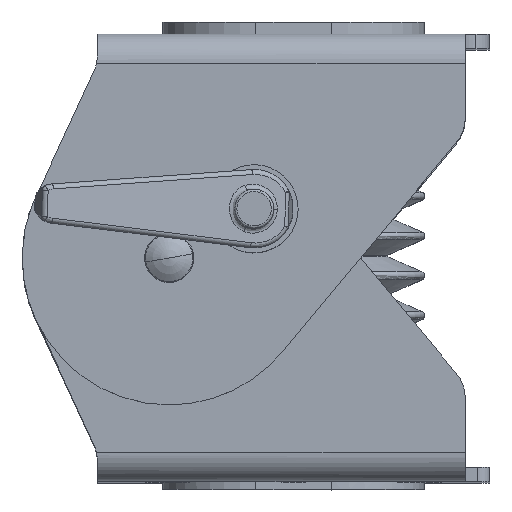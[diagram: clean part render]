
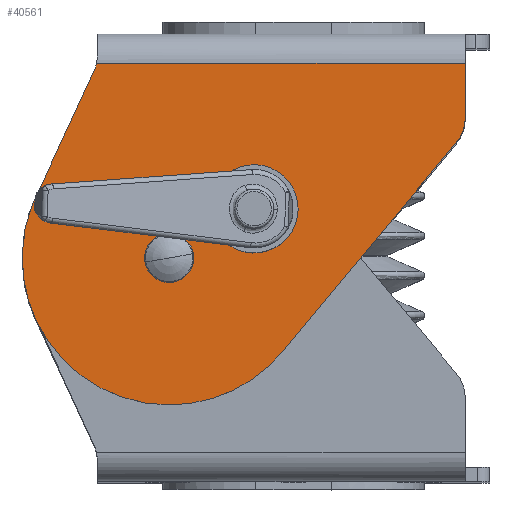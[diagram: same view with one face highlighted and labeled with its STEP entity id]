
A CAD part, top view. The second image highlights one B-rep face of the part: STEP entity #40561.
In plain terms, the highlighted planar face has unit normal (0, 0, 1) as drawn and (1, 0, 0) by its records, which use the part's own axes.
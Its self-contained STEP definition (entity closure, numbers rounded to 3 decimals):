
#167 = DIRECTION ( 'NONE',  ( 0., 1., 0. ) ) ;
#375 = CIRCLE ( 'NONE', #7839, 30. ) ;
#518 = DIRECTION ( 'NONE',  ( 1., 0., 0. ) ) ;
#819 = AXIS2_PLACEMENT_3D ( 'NONE', #30276, #25550, #56604 ) ;
#1138 = ORIENTED_EDGE ( 'NONE', *, *, #44707, .T. ) ;
#1325 = DIRECTION ( 'NONE',  ( 1., 0., 0. ) ) ;
#1395 = ORIENTED_EDGE ( 'NONE', *, *, #45716, .F. ) ;
#2998 = VECTOR ( 'NONE', #30025, 1000. ) ;
#4478 = VERTEX_POINT ( 'NONE', #41335 ) ;
#4757 = AXIS2_PLACEMENT_3D ( 'NONE', #58039, #518, #36445 ) ;
#5113 = CARTESIAN_POINT ( 'NONE',  ( 988.398, 293.008, -6. ) ) ;
#5135 = VERTEX_POINT ( 'NONE', #7096 ) ;
#5344 = CIRCLE ( 'NONE', #4757, 8. ) ;
#5802 = CARTESIAN_POINT ( 'NONE',  ( 988.398, 293.008, -0.499 ) ) ;
#6952 = CARTESIAN_POINT ( 'NONE',  ( 988.398, 232.584, -45.701 ) ) ;
#7028 = CARTESIAN_POINT ( 'NONE',  ( 988.398, 204.502, -35.149 ) ) ;
#7096 = CARTESIAN_POINT ( 'NONE',  ( 988.398, 217.778, -6. ) ) ;
#7839 = AXIS2_PLACEMENT_3D ( 'NONE', #6952, #1325, #16991 ) ;
#7845 = ORIENTED_EDGE ( 'NONE', *, *, #41290, .F. ) ;
#8040 = VERTEX_POINT ( 'NONE', #51368 ) ;
#8861 = EDGE_LOOP ( 'NONE', ( #64057, #15357, #58550, #63184 ) ) ;
#8943 = DIRECTION ( 'NONE',  ( 0., 0., -1. ) ) ;
#9208 = VECTOR ( 'NONE', #15420, 1000. ) ;
#10477 = LINE ( 'NONE', #18034, #63560 ) ;
#11359 = DIRECTION ( 'NONE',  ( 0., 0.64, 0.769 ) ) ;
#11716 = EDGE_LOOP ( 'NONE', ( #1395, #45173, #35265, #22279, #58313, #51572, #1138, #27426 ) ) ;
#12749 = CARTESIAN_POINT ( 'NONE',  ( 988.398, 232.584, -75.701 ) ) ;
#13629 = VERTEX_POINT ( 'NONE', #7028 ) ;
#13684 = PLANE ( 'NONE',  #39073 ) ;
#15328 = DIRECTION ( 'NONE',  ( 1., 0., 0. ) ) ;
#15357 = ORIENTED_EDGE ( 'NONE', *, *, #15688, .F. ) ;
#15420 = DIRECTION ( 'NONE',  ( 0., 0., 1. ) ) ;
#15688 = EDGE_CURVE ( 'NONE', #50810, #57821, #30295, .T. ) ;
#16991 = DIRECTION ( 'NONE',  ( 0., 0., -1. ) ) ;
#17071 = VECTOR ( 'NONE', #23934, 1000. ) ;
#18034 = CARTESIAN_POINT ( 'NONE',  ( 988.398, 229.384, -48.901 ) ) ;
#18854 = DIRECTION ( 'NONE',  ( 1., 0., 0. ) ) ;
#21484 = FACE_OUTER_BOUND ( 'NONE', #11716, .T. ) ;
#22201 = VECTOR ( 'NONE', #27211, 1000. ) ;
#22279 = ORIENTED_EDGE ( 'NONE', *, *, #47772, .T. ) ;
#22888 = CARTESIAN_POINT ( 'NONE',  ( 988.398, 249.905, -43.801 ) ) ;
#22961 = EDGE_CURVE ( 'NONE', #26733, #13629, #38833, .T. ) ;
#23262 = DIRECTION ( 'NONE',  ( 0., 1., 0. ) ) ;
#23934 = DIRECTION ( 'NONE',  ( 0., -0.419, -0.908 ) ) ;
#24068 = VERTEX_POINT ( 'NONE', #29010 ) ;
#24246 = CIRCLE ( 'NONE', #59595, 8.1 ) ;
#24586 = VECTOR ( 'NONE', #167, 1000. ) ;
#24688 = CARTESIAN_POINT ( 'NONE',  ( 988.398, 217.274, -7.442 ) ) ;
#25351 = LINE ( 'NONE', #5113, #24586 ) ;
#25463 = VECTOR ( 'NONE', #23262, 1000. ) ;
#25550 = DIRECTION ( 'NONE',  ( -1., 0., 0. ) ) ;
#25802 = VERTEX_POINT ( 'NONE', #12749 ) ;
#26164 = CARTESIAN_POINT ( 'NONE',  ( 988.398, 293.008, -17.095 ) ) ;
#26733 = VERTEX_POINT ( 'NONE', #24688 ) ;
#27211 = DIRECTION ( 'NONE',  ( 0., -1., 0. ) ) ;
#27426 = ORIENTED_EDGE ( 'NONE', *, *, #48279, .T. ) ;
#27465 = CARTESIAN_POINT ( 'NONE',  ( 988.398, 229.384, -48.901 ) ) ;
#28085 = EDGE_CURVE ( 'NONE', #60522, #39290, #10477, .T. ) ;
#29010 = CARTESIAN_POINT ( 'NONE',  ( 988.398, 249.905, -27.601 ) ) ;
#29173 = DIRECTION ( 'NONE',  ( 0., 0., -1. ) ) ;
#30025 = DIRECTION ( 'NONE',  ( 0., 0., 1. ) ) ;
#30253 = LINE ( 'NONE', #32629, #22201 ) ;
#30276 = CARTESIAN_POINT ( 'NONE',  ( 988.398, 210.008, -4.093 ) ) ;
#30295 = LINE ( 'NONE', #44441, #2998 ) ;
#30499 = CIRCLE ( 'NONE', #61840, 30. ) ;
#31999 = VERTEX_POINT ( 'NONE', #26164 ) ;
#32576 = ORIENTED_EDGE ( 'NONE', *, *, #32754, .F. ) ;
#32629 = CARTESIAN_POINT ( 'NONE',  ( 988.398, 229.384, -42.501 ) ) ;
#32754 = EDGE_CURVE ( 'NONE', #24068, #54990, #24246, .T. ) ;
#33569 = DIRECTION ( 'NONE',  ( 0., 0., -1. ) ) ;
#35265 = ORIENTED_EDGE ( 'NONE', *, *, #22961, .T. ) ;
#36007 = FACE_BOUND ( 'NONE', #8861, .T. ) ;
#36445 = DIRECTION ( 'NONE',  ( 0., 0., -1. ) ) ;
#37177 = CARTESIAN_POINT ( 'NONE',  ( 988.398, 291.158, -22.212 ) ) ;
#37396 = EDGE_CURVE ( 'NONE', #25802, #4478, #30499, .T. ) ;
#37472 = LINE ( 'NONE', #37177, #45544 ) ;
#37869 = CARTESIAN_POINT ( 'NONE',  ( 988.398, 235.784, -48.901 ) ) ;
#37873 = CARTESIAN_POINT ( 'NONE',  ( 988.398, 217.274, -7.442 ) ) ;
#38833 = LINE ( 'NONE', #37873, #17071 ) ;
#38873 = DIRECTION ( 'NONE',  ( 1., 0., 0. ) ) ;
#39073 = AXIS2_PLACEMENT_3D ( 'NONE', #49663, #18854, #29173 ) ;
#39290 = VERTEX_POINT ( 'NONE', #27465 ) ;
#40527 = DIRECTION ( 'NONE',  ( 1., 0., 0. ) ) ;
#40561 = ADVANCED_FACE ( 'NONE', ( #21484, #36007, #61738 ), #13684, .T. ) ;
#41290 = EDGE_CURVE ( 'NONE', #54990, #24068, #60068, .T. ) ;
#41335 = CARTESIAN_POINT ( 'NONE',  ( 988.398, 255.891, -64.591 ) ) ;
#44138 = EDGE_CURVE ( 'NONE', #4478, #48117, #37472, .T. ) ;
#44441 = CARTESIAN_POINT ( 'NONE',  ( 988.398, 235.784, -42.501 ) ) ;
#44707 = EDGE_CURVE ( 'NONE', #48117, #31999, #5344, .T. ) ;
#44719 = EDGE_CURVE ( 'NONE', #57821, #60522, #30253, .T. ) ;
#45173 = ORIENTED_EDGE ( 'NONE', *, *, #66211, .T. ) ;
#45544 = VECTOR ( 'NONE', #11359, 1000. ) ;
#45716 = EDGE_CURVE ( 'NONE', #5135, #8040, #25351, .T. ) ;
#45966 = AXIS2_PLACEMENT_3D ( 'NONE', #60571, #40527, #8943 ) ;
#46345 = DIRECTION ( 'NONE',  ( 0., 0., -1. ) ) ;
#47772 = EDGE_CURVE ( 'NONE', #13629, #25802, #375, .T. ) ;
#48117 = VERTEX_POINT ( 'NONE', #61737 ) ;
#48279 = EDGE_CURVE ( 'NONE', #31999, #8040, #60625, .T. ) ;
#49663 = CARTESIAN_POINT ( 'NONE',  ( 988.398, 293.008, 4.501 ) ) ;
#50810 = VERTEX_POINT ( 'NONE', #56592 ) ;
#51368 = CARTESIAN_POINT ( 'NONE',  ( 988.398, 293.008, -6. ) ) ;
#51572 = ORIENTED_EDGE ( 'NONE', *, *, #44138, .T. ) ;
#53329 = EDGE_CURVE ( 'NONE', #39290, #50810, #66536, .T. ) ;
#53500 = CARTESIAN_POINT ( 'NONE',  ( 988.398, 232.584, -45.701 ) ) ;
#54990 = VERTEX_POINT ( 'NONE', #22888 ) ;
#56592 = CARTESIAN_POINT ( 'NONE',  ( 988.398, 235.784, -48.901 ) ) ;
#56604 = DIRECTION ( 'NONE',  ( 0., 0., -1. ) ) ;
#57821 = VERTEX_POINT ( 'NONE', #65551 ) ;
#58039 = CARTESIAN_POINT ( 'NONE',  ( 988.398, 285.008, -17.095 ) ) ;
#58313 = ORIENTED_EDGE ( 'NONE', *, *, #37396, .T. ) ;
#58402 = CARTESIAN_POINT ( 'NONE',  ( 988.398, 229.384, -42.501 ) ) ;
#58550 = ORIENTED_EDGE ( 'NONE', *, *, #53329, .F. ) ;
#59349 = DIRECTION ( 'NONE',  ( 0., 0., -1. ) ) ;
#59595 = AXIS2_PLACEMENT_3D ( 'NONE', #62298, #15328, #46345 ) ;
#60068 = CIRCLE ( 'NONE', #45966, 8.1 ) ;
#60522 = VERTEX_POINT ( 'NONE', #58402 ) ;
#60571 = CARTESIAN_POINT ( 'NONE',  ( 988.398, 249.905, -35.701 ) ) ;
#60625 = LINE ( 'NONE', #5802, #9208 ) ;
#61737 = CARTESIAN_POINT ( 'NONE',  ( 988.398, 291.158, -22.212 ) ) ;
#61738 = FACE_BOUND ( 'NONE', #62008, .T. ) ;
#61840 = AXIS2_PLACEMENT_3D ( 'NONE', #53500, #38873, #59349 ) ;
#62008 = EDGE_LOOP ( 'NONE', ( #7845, #32576 ) ) ;
#62298 = CARTESIAN_POINT ( 'NONE',  ( 988.398, 249.905, -35.701 ) ) ;
#62856 = CIRCLE ( 'NONE', #819, 8. ) ;
#63184 = ORIENTED_EDGE ( 'NONE', *, *, #28085, .F. ) ;
#63560 = VECTOR ( 'NONE', #33569, 1000. ) ;
#64057 = ORIENTED_EDGE ( 'NONE', *, *, #44719, .F. ) ;
#65551 = CARTESIAN_POINT ( 'NONE',  ( 988.398, 235.784, -42.501 ) ) ;
#66211 = EDGE_CURVE ( 'NONE', #5135, #26733, #62856, .T. ) ;
#66536 = LINE ( 'NONE', #37869, #25463 ) ;
